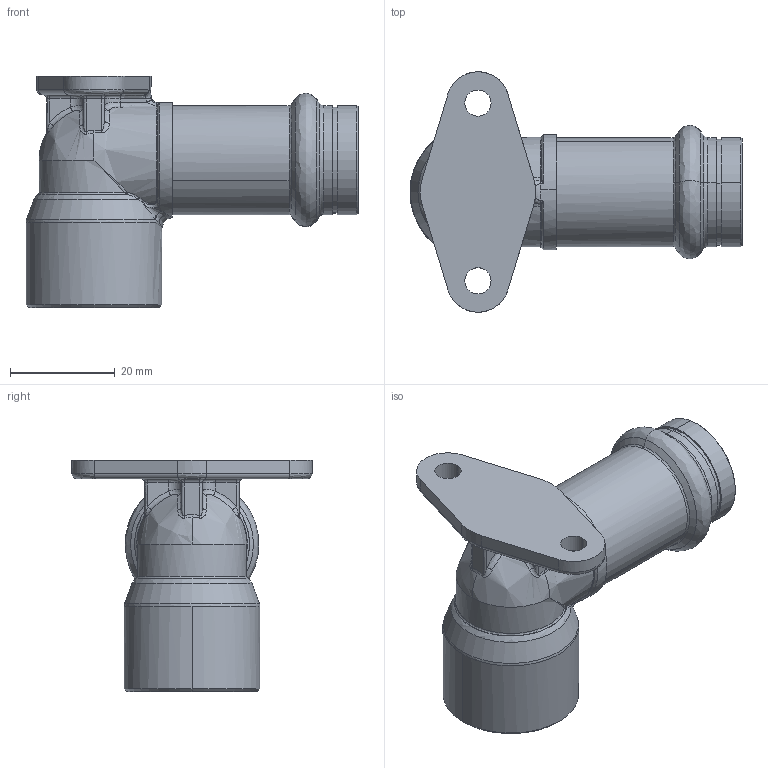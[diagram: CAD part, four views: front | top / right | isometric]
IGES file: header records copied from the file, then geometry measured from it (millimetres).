
Start section: Elysium IGES Interface
Global section: file name: C:\3d modellen sudo\S-Pr VP\SP6471GV\6471GVW1812.igs; native system: CoCreate Modeling 17.00A  17-Jun-2010; preprocessor: CoCreate IGES_3D V2.2; author: Unknown; organization: Unknown; date: 20130129.100532; units: millimetre
Bounding box: 63.5 x 45.98 x 44.2 mm (x, y, z)
Volume: 15215.7 mm3; surface area: 12104.9 mm2
Topology: 1 solids, 1 shells, 204 faces, 482 edges, 274 vertices
Faces by surface type: bspline 204
